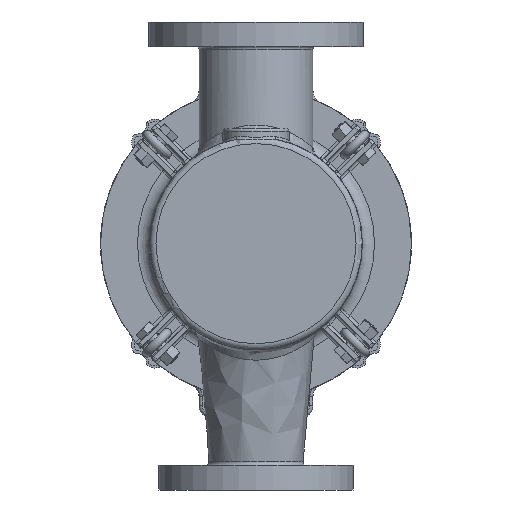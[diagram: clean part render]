
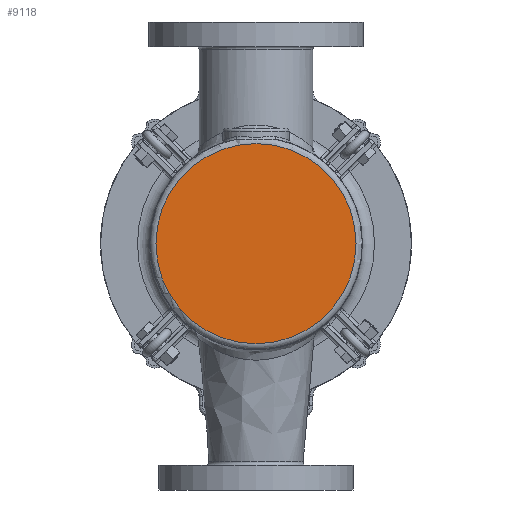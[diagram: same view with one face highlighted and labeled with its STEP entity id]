
A CAD part, front view. The second image highlights one B-rep face of the part: STEP entity #9118.
In plain terms, the highlighted planar face has unit normal (0, -1, 0).
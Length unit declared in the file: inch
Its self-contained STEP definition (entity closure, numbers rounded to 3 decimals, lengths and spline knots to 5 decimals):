
#1261=PLANE('',#9738);
#2038=FACE_OUTER_BOUND('',#2633,.T.);
#2633=EDGE_LOOP('',(#6166));
#3379=CIRCLE('',#9730,4.0625);
#3989=VERTEX_POINT('',#14168);
#4835=EDGE_CURVE('',#3989,#3989,#3379,.T.);
#6166=ORIENTED_EDGE('',*,*,#4835,.F.);
#9118=ADVANCED_FACE('',(#2038),#1261,.F.);
#9730=AXIS2_PLACEMENT_3D('',#14169,#10976,#10977);
#9738=AXIS2_PLACEMENT_3D('',#14180,#10992,#10993);
#10976=DIRECTION('center_axis',(0.,1.,0.));
#10977=DIRECTION('ref_axis',(1.,0.,0.));
#10992=DIRECTION('center_axis',(0.,1.,0.));
#10993=DIRECTION('ref_axis',(0.,0.,1.));
#14168=CARTESIAN_POINT('',(-4.0625,0.,0.));
#14169=CARTESIAN_POINT('Origin',(0.,0.,0.));
#14180=CARTESIAN_POINT('Origin',(0.,0.,0.));
